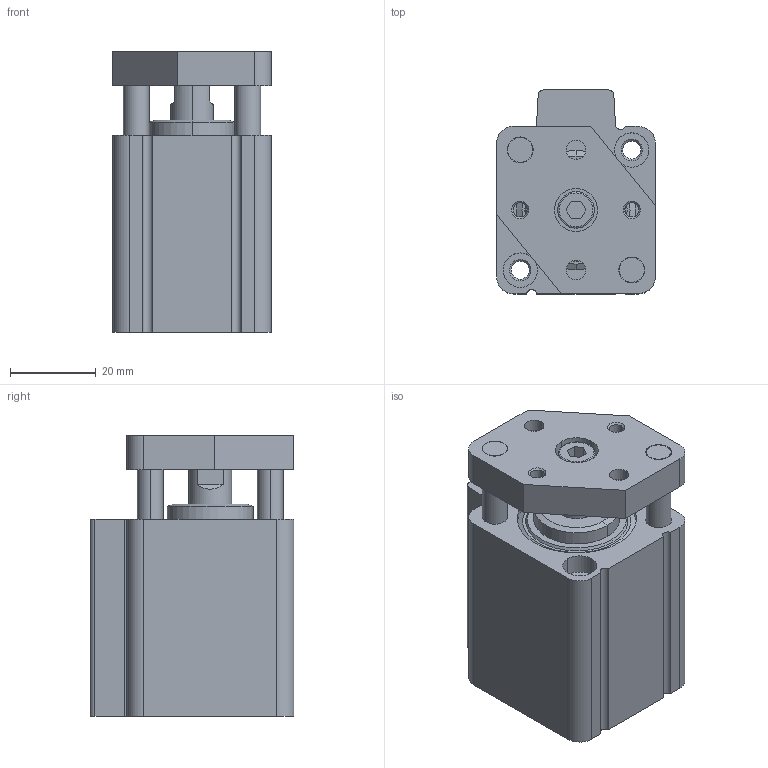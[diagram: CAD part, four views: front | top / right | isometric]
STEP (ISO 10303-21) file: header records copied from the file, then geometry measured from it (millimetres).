
FILE_DESCRIPTION((''),'2;1');
FILE_NAME('0822010732_ASM','2015-07-01T',('vol1hc'),(''),'PRO/ENGINEER BY PARAMETRIC TECHNOLOGY CORPORATION, 2012421','PRO/ENGINEER BY PARAMETRIC TECHNOLOGY CORPORATION, 2012421','');
FILE_SCHEMA(('CONFIG_CONTROL_DESIGN','SHAPE_APPEARANCE_LAYERS_GROUPS'));
Length unit declared in the file: millimetre
Products named in the file (3): 0822010732-A; 0822010732-B; 0822010732_ASM
Assembly tree (2 placements, depth 2):
  0822010732_ASM
    0822010732-A
    0822010732-B
Bounding box: 37 x 47.5 x 65.5 mm (x, y, z)
Volume: 72880.7 mm3; surface area: 28272.7 mm2
Topology: 2 solids, 2 shells, 180 faces, 404 edges, 258 vertices
Faces by surface type: cylinder 80, plane 60, cone 34, torus 6
Entity records: 5223 total; most frequent: DIRECTION 986, CARTESIAN_POINT 864, ORIENTED_EDGE 808, EDGE_CURVE 404, AXIS2_PLACEMENT_3D 399, VERTEX_POINT 258, EDGE_LOOP 226, CIRCLE 214
